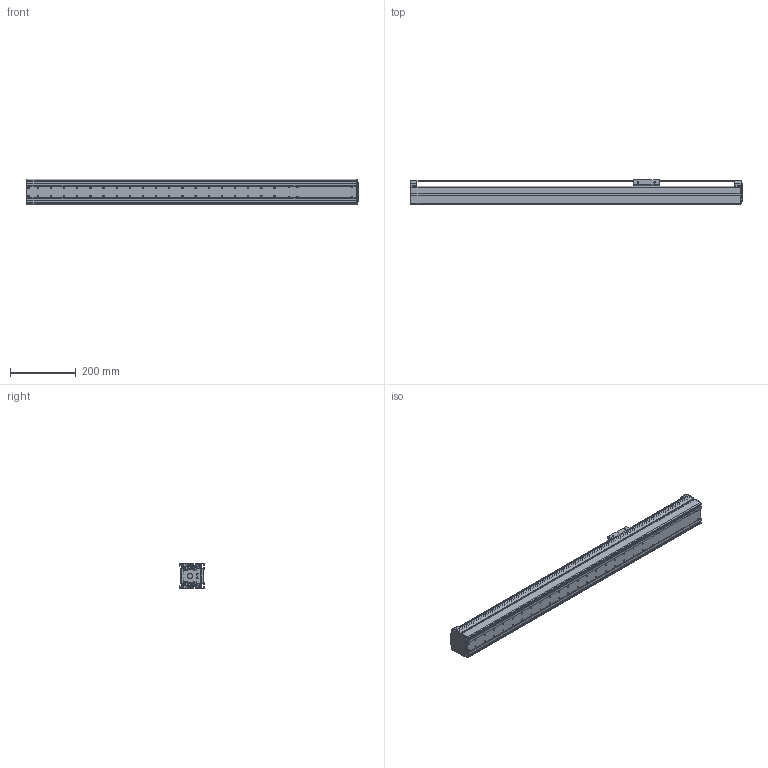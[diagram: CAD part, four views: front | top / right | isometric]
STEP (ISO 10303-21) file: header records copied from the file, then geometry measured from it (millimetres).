
FILE_DESCRIPTION((''),'2;1');
FILE_NAME('BE10E-ST-S_B-65_IGS_PRT','2017-06-17T',(' '),(''),'PRO/ENGINEER BY PARAMETRIC TECHNOLOGY CORPORATION, 2015030','PRO/ENGINEER BY PARAMETRIC TECHNOLOGY CORPORATION, 2015030','');
FILE_SCHEMA(('CONFIG_CONTROL_DESIGN'));
Length unit declared in the file: millimetre
Products named in the file (1): BE10E-ST-S_B-65_IGS_PRT
Bounding box: 1010 x 75 x 78 mm (x, y, z)
Volume: 1139811.3 mm3; surface area: 765237.9 mm2
Topology: 3 solids, 77 shells, 1195 faces, 3199 edges, 2084 vertices
Faces by surface type: cylinder 606, plane 436, torus 64, sphere 42, cone 38, bspline 9
Entity records: 38709 total; most frequent: CARTESIAN_POINT 8005, DIRECTION 6678, ORIENTED_EDGE 6072, EDGE_CURVE 3179, AXIS2_PLACEMENT_3D 2536, VERTEX_POINT 2084, VECTOR 1606, LINE 1606
